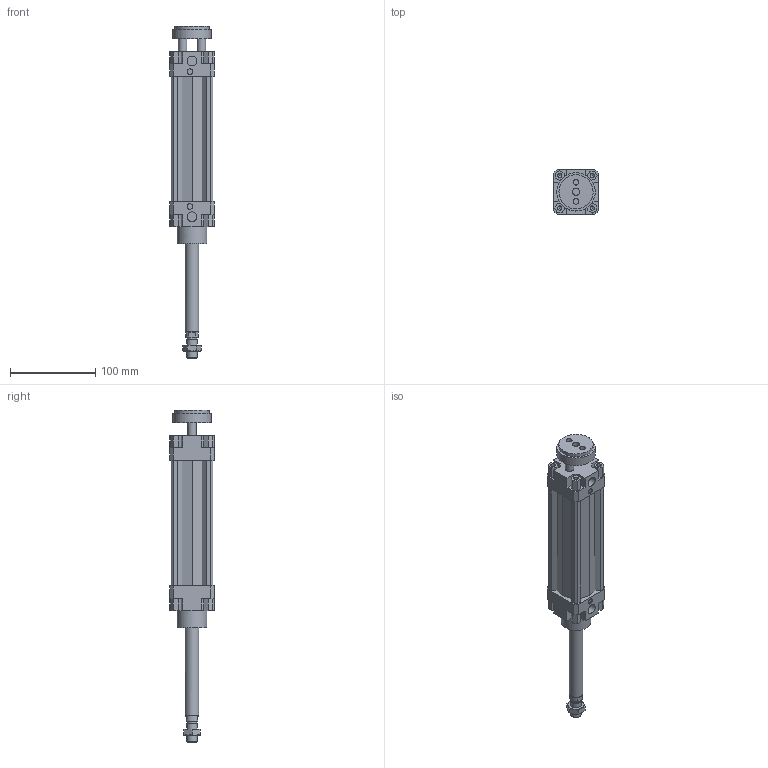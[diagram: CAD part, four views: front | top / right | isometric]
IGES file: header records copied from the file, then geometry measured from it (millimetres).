
Global section: file name: 132#_040_0100_02; native system: Autodesk Inventor 2014; preprocessor: unknown; author: A. Manieri; date: 20161006.154813; units: millimetre
Bounding box: 52 x 52 x 389 mm (x, y, z)
Volume: 383773.8 mm3; surface area: 115668.7 mm2
Topology: 3 solids, 3 shells, 220 faces, 590 edges, 398 vertices
Faces by surface type: bspline 220
